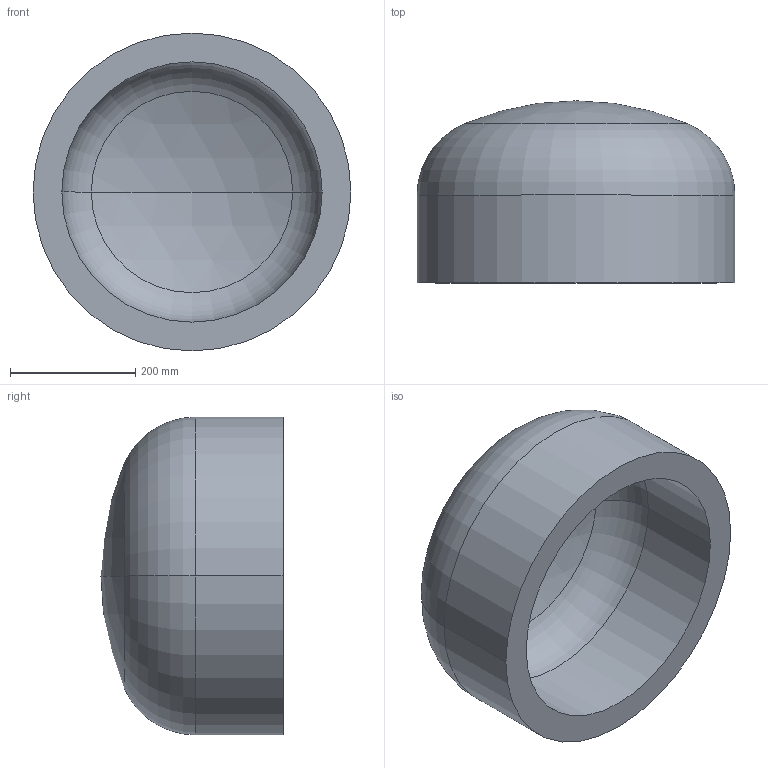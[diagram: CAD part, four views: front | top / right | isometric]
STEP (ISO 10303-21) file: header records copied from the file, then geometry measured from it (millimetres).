
FILE_DESCRIPTION (( 'STEP AP203' ), '1' );
FILE_NAME ('DIN 28013 Korbbogenform_-_Boden DIN 28013 - 508 x 140 - I - s=46.step', '2016-07-01T07:55:14', ( '' ), ( '' ), 'SwSTEP 2.0', 'SolidWorks 2013', '' );
FILE_SCHEMA (( 'CONFIG_CONTROL_DESIGN' ));
Length unit declared in the file: millimetre
Products named in the file (1): DIN 28013 Korbbogenform_-_Boden DIN 28013 - 508 x 140 - I - s=46
Bounding box: 508 x 290.86 x 508 mm (x, y, z)
Volume: 20875800.1 mm3; surface area: 978840.2 mm2
Topology: 1 solids, 1 shells, 13 faces, 24 edges, 14 vertices
Faces by surface type: torus 4, cylinder 4, sphere 4, plane 1
Entity records: 407 total; most frequent: DIRECTION 72, CARTESIAN_POINT 52, ORIENTED_EDGE 48, AXIS2_PLACEMENT_3D 34, EDGE_CURVE 24, CIRCLE 20, VERTEX_POINT 14, EDGE_LOOP 14
